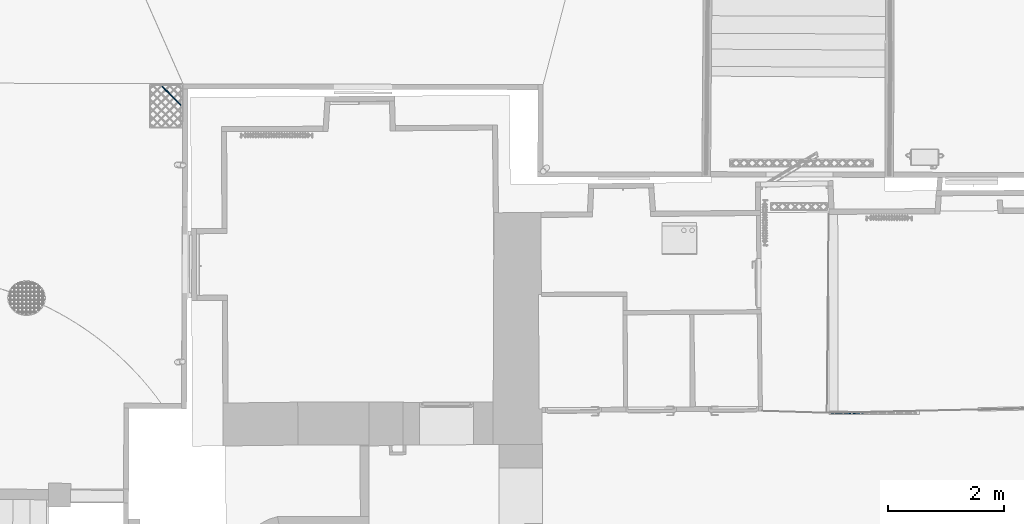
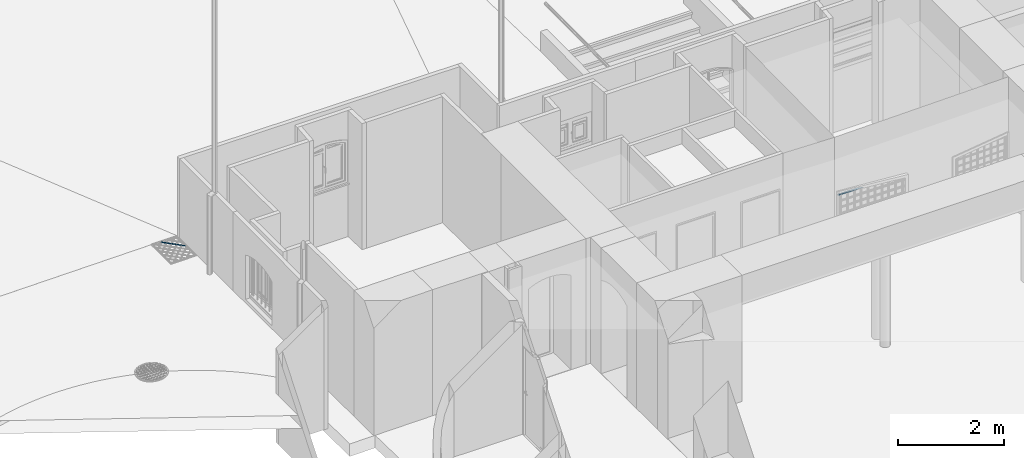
# One storey, part 55 of 133: 2 members, 2 elements without a shape of their own.
"""IFC2X3 building model written with IfcOpenShell, lengths in centimetres."""

from ifc_helpers import new_model, entity, si_unit, converted_unit, direction, frame, origin, origin_with_axes, place, context, subcontext, project, spatial, faceted_brep, material, type_object, element, aggregate, save


model = new_model("IFC2X3")

# Units and contexts
model_context = context("Model", 3, precision=0.0001, world=origin(), true_north=direction((0.225632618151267, 0.974212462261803, 0.0)))
body_context = subcontext(model_context, "Body", "Model", "MODEL_VIEW")
ifc_project = project(units=[si_unit("LENGTHUNIT", "METRE", prefix="CENTI"), si_unit("AREAUNIT", "SQUARE_METRE", prefix="CENTI"), si_unit("VOLUMEUNIT", "CUBIC_METRE", prefix="CENTI"), converted_unit("PLANEANGLEUNIT", "DEGREE", entity("IfcRatioMeasure", 0.0174532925), si_unit("PLANEANGLEUNIT", "RADIAN"), dimensions=[0, 0, 0, 0, 0, 0, 0])], contexts=[model_context])

# Site, building, storey
site_placement = place(None, origin_with_axes())
site = spatial("IfcSite", under=ifc_project, at=site_placement, Name="Default Site", CompositionType="ELEMENT")
building_placement = place(site_placement, origin_with_axes())
building = spatial("IfcBuilding", under=site, at=building_placement, Name="Default Building", CompositionType="ELEMENT")
storey_placement = place(building_placement, frame((0.0, 0.0, -291.400371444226), z_axis=(0.0, 0.0, 1.0), x_axis=(1.0, 0.0, 0.0)))
storey = spatial("IfcBuildingStorey", under=building, at=storey_placement, Name="Rez-de-Jardin", CompositionType="ELEMENT", Elevation=-291.400371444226)

# Assembly, member
building_element_proxy_type = type_object("IfcBuildingElementProxyType", Name="Type Object", PredefinedType="NOTDEFINED")
assembly_1_placement = place(storey_placement, frame((-1322.94034957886, 694.801568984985, 108.0), z_axis=(0.0, 1.0, -2.38697950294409e-15), x_axis=(1.0, 0.0, 0.0)))
assembly_1 = element("IfcElementAssembly", 1, at=assembly_1_placement, inside=storey, type_object=building_element_proxy_type, Name="Panneau 303645", ObjectType="Precast panel", PredefinedType="USERDEFINED")
ifc_material_1 = material(Name="Aluminium satiné")
member_1_placement = place(assembly_1_placement, frame((54.0000021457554, 0.342020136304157, 38.4553462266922), z_axis=(0.999999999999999, 0.0, 0.0), x_axis=(0.0, -0.774598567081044, -0.632453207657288)))
member_1 = element("IfcMember", 2, at=member_1_placement, material=ifc_material_1, Name="4294966971", context=body_context, shape_type="Brep", body=[
    faceted_brep([(8.32667268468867e-15, -1.66533453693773e-14, 0.0), (-0.388288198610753, -2.22044604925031e-14, 0.0), (-0.799165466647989, -0.15025167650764, 0.0), (-1.18307068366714, -0.432628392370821, 0.0), (-1.49370084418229, -0.813073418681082, 0.0), (-1.6935887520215, -1.24569871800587, 0.0), (-1.75862479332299, -1.6783229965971, 0.0), (-1.68096675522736, -2.05876802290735, 0.0), (-1.46997929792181, -2.3411439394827, 0.0), (-1.15111014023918, -2.49139148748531, 0.0), (-0.762820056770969, -2.49138917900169, 0.0), (-0.351944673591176, -2.34113981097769, 0.0), (0.0319605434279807, -2.05876309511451, 0.0), (0.342590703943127, -1.67831806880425, 0.0), (0.542478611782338, -1.24569276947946, 0.0), (0.607516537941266, -0.813066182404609, 0.0), (0.529856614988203, -0.432623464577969, 0.0), (0.31886915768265, -0.150247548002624, 0.0), (-21.5829499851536, -26.9745525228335, -34.6299439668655), (-21.3180216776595, -27.1908642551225, -34.5446571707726), (-21.0850476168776, -27.3810856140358, -34.2990815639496), (-20.9121279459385, -27.5222730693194, -33.9228376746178), (-20.8201192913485, -27.5973973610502, -33.461306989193), (-20.8201192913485, -27.5973973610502, -32.970155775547), (-20.9121279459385, -27.5222730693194, -32.5086236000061), (-21.0850476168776, -27.3810856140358, -32.1323812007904), (-21.3180216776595, -27.1908642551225, -31.8868055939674), (-21.5829499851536, -26.9745525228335, -31.8015173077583), (-21.8478782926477, -26.7582407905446, -31.8868055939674), (-22.0808523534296, -26.5680194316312, -32.1323812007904), (-22.2537720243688, -26.4268319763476, -32.5086236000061), (-22.3457806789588, -26.3517076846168, -32.970155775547), (-22.3457806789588, -26.3517076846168, -33.461306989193), (-22.2537720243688, -26.4268319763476, -33.9228376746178), (-22.0808523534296, -26.5680194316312, -34.2990815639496), (-21.8478782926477, -26.7582407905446, -34.5446571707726), (0.529856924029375, -0.432623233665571, -3.74318493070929e-07), (-21.3180219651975, -27.190864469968, -34.5446568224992), (0.607515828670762, -0.813066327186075, 5.60727920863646e-07), (-21.0850483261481, -27.3810857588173, -34.2990810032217), (-21.3180223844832, -27.1908643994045, -34.544656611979), (0.54247930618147, -1.24569287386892, -3.58315028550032e-07), (-20.9121278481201, -27.5222730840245, -33.9228377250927), (0.342590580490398, -1.67831801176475, 3.38953656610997e-08), (-20.8201197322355, -27.597397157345, -33.4613068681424), (-20.9121282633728, -27.5222729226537, -33.9228375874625), (0.0319605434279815, -2.05876309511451, 0.0), (-0.351944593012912, -2.34113992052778, 3.38953654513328e-08), (-20.9121278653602, -27.5222731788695, -32.5086235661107), (-20.8201190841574, -27.5973976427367, -32.9701556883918), (-0.76281988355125, -2.49138965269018, 2.57365065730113e-07), (-21.0850474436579, -27.3810860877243, -32.1323809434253), (-1.15111014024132, -2.49139076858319, -5.5685918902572e-07), (-21.3180216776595, -27.1908642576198, -31.8868055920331), (-1.46997913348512, -2.34114359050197, -3.74318492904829e-07), (-21.5829501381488, -26.9745528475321, -31.801516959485), (-21.3180219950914, -27.1908649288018, -31.8868048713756), (-1.68096706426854, -2.05876825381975, 3.74318495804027e-07), (-21.8478791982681, -26.7582414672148, -31.8868044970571), (-21.5829505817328, -26.9745529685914, -31.8015165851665), (-1.75862549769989, -1.67832314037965, 5.56859188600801e-07), (-22.0808530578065, -26.5680195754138, -32.1323806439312), (-21.8478789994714, -26.7582409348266, -31.8868050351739), (-1.69358825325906, -1.24569879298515, -2.57365067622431e-07), (-22.2537715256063, -26.4268320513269, -32.5086238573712), (-1.49370072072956, -0.813073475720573, -3.38953650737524e-08), (-22.3457808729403, -26.3517075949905, -32.9701557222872), (-1.18307068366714, -0.43262839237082, 0.0), (-22.3457806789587, -26.3517076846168, -33.461306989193), (-22.3457806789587, -26.3517076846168, -32.970155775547), (-0.799165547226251, -0.150251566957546, -3.3895365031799e-08), (-22.253771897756, -26.4268321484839, -33.9228376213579), (-22.3457804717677, -26.3517079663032, -33.4613069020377), (-0.3882879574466, -6.59490102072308e-07, 3.58315028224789e-07), (-22.0808521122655, -26.5680200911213, -34.2990812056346), (-22.2537718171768, -26.4268325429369, -33.9228373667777), (-2.15100271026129e-12, 7.23896601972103e-07, -5.60727917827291e-07), (-21.8478782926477, -26.7582407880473, -34.5446571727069), (0.318868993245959, -0.150247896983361, 3.74318490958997e-07), (-21.5829501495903, -26.9745528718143, -34.629943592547), (-21.8478786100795, -26.7582414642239, -34.5446564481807)], [[[0, 1, 2, 3, 4, 5, 6, 7, 8, 9, 10, 11, 12, 13, 14, 15, 16, 17]], [[18, 19, 20, 21, 22, 23, 24, 25, 26, 27, 28, 29, 30, 31, 32, 33, 34, 35]], [[17, 36, 37, 18]], [[16, 38, 39, 40]], [[15, 41, 42, 20]], [[14, 43, 44, 45]], [[13, 46, 23, 22]], [[12, 47, 48, 49]], [[11, 50, 51, 24]], [[10, 52, 53, 25]], [[9, 54, 55, 56]], [[8, 57, 58, 59]], [[7, 60, 61, 62]], [[6, 63, 64, 29]], [[5, 65, 66, 30]], [[4, 67, 68, 69]], [[3, 70, 71, 72]], [[2, 73, 74, 75]], [[1, 76, 77, 34]], [[0, 78, 79, 80]]]),
])
aggregate(assembly_1, [member_1])

assembly_2_placement = place(storey_placement, frame((-151.298940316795, 206.642558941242, 0.0), z_axis=(0.0, 0.0, 1.0), x_axis=(1.0, 0.0, 0.0)))
assembly_2 = element("IfcElementAssembly", 3, at=assembly_2_placement, inside=storey, type_object=building_element_proxy_type, Name="Panneau 76235", ObjectType="Precast panel", PredefinedType="USERDEFINED")
ifc_material_2 = material(Name="Noyer 01")
member_2_placement = place(assembly_2_placement, frame((58.3416759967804, -2.48696978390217, 154.097974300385), z_axis=(0.0894041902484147, -8.0331989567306e-09, 0.99599542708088), x_axis=(0.984264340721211, -0.153028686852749, -0.0883511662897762)))
member_2 = element("IfcMember", 4, at=member_2_placement, material=ifc_material_2, Name="4294966773", context=body_context, shape_type="Brep", body=[
    faceted_brep([(1.66533453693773e-14, -3.05311331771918e-14, 4.44089209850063e-14), (-2.94814781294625, -3.05311331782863e-14, -1.54761480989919e-07), (-7.41044106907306, -0.352149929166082, -3.8900730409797e-07), (-12.8486656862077, -1.01397589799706, -6.74484149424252e-07), (-18.6068860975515, -1.90565118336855, -9.76759011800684e-07), (-23.9905775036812, -2.91962682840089, -1.25937316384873e-06), (-28.3503854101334, -3.93360202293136, -1.48823907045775e-06), (-31.1604580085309, -4.82527730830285, -1.63575240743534e-06), (-32.0818532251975, -5.48710256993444, -1.68412058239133e-06), (-31.0034413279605, -5.83925254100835, -1.62750989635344e-06), (-28.0552905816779, -5.83925208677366, -1.47274821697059e-06), (-23.5929973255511, -5.4871021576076, -1.23850239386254e-06), (-18.1547745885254, -4.82527647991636, -9.53025647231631e-07), (-12.3965541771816, -3.93360119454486, -6.50750784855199e-07), (-7.01286089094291, -2.9196252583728, -3.68136534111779e-07), (-2.65305298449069, -1.90565006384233, -1.39270627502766e-07), (0.157016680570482, -1.01397523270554, 8.24255549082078e-09), (1.07841483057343, -0.352149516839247, 5.66108844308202e-08), (-53.4000726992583, -8.78828389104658, -4.9484791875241), (-53.3295573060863, -9.29650923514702, -4.85837353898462), (-53.2835312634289, -9.74591027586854, -4.59894431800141), (-53.2675464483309, -10.0822826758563, -4.2014773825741), (-53.2835305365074, -10.2650549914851, -3.71391667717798), (-53.3295565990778, -10.2721822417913, -3.19505824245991), (-53.4000730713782, -10.102804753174, -2.70748566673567), (-53.4865736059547, -9.77735188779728, -2.31001873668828), (-53.5786257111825, -9.335078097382, -2.05058952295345), (-53.6651269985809, -8.82932820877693, -1.96048388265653), (-53.7356423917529, -8.32110286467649, -2.05058953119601), (-53.7816684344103, -7.87170182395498, -2.31001875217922), (-53.7976532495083, -7.53532942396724, -2.70748568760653), (-53.7816681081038, -7.35255694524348, -3.19505826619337), (-53.7356420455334, -7.34542969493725, -3.71391670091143), (-53.665126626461, -7.51480734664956, -4.20147740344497), (-53.5786260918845, -7.84026021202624, -4.59894433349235), (-53.4865739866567, -8.28253400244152, -4.85837354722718), (1.07841483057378, -0.352149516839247, -6.64609878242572e-06), (0.157017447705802, -1.0139763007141, -6.61653058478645e-06), (-53.3295565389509, -9.29651030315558, -4.8583801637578), (-53.4000726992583, -8.78828389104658, -4.94847918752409), (0.157016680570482, -1.01397523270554, 8.24260659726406e-09), (-2.65305298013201, -1.90565007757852, -9.07708454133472e-09), (-53.2835312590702, -9.74591028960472, -4.59894434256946), (-53.3295573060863, -9.29650923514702, -4.85837353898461), (-2.6530529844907, -1.90565006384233, 1.54909640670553e-08), (-7.01286106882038, -2.91962449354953, -1.03066334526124e-06), (-53.2675466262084, -10.082281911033, -4.20147672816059), (-7.01286089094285, -2.9196252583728, -1.68507685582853e-06), (-12.3965545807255, -3.93359905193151, -8.08635655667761e-06), (-53.2835309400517, -10.2650528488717, -3.71391588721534), (-12.3965541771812, -3.93360119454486, -8.87631919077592e-06), (-18.154774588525, -4.82527647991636, -9.1355160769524e-06), (-23.5929975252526, -5.48710051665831, -4.78892195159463e-06), (-53.4000732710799, -10.1028031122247, -2.70748626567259), (-53.3295565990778, -10.2721822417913, -3.19505824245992), (-23.5929973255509, -5.4871021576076, -4.18998502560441e-06), (-28.0552905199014, -5.83925286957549, -5.24151925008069e-06), (-53.4865735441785, -9.77735267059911, -2.31001808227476), (-28.0552905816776, -5.83925208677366, -5.89593276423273e-06), (-31.0034413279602, -5.83925252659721, -6.18694608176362e-06), (-53.5786257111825, -9.33507808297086, -2.0505895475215), (-31.0034413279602, -5.83925254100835, -6.16237803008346e-06), (-32.0818528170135, -5.48710131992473, -5.87460714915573e-06), (-53.6651265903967, -8.82932695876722, -1.96049050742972), (-53.5786257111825, -9.335078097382, -2.05058952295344), (-32.0818532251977, -5.48710256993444, 7.5016604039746e-07), (-31.160458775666, -4.82527624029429, 4.54152592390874e-07), (-53.7356431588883, -8.32110179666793, -2.05058290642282), (-31.1604580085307, -4.82527730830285, -6.1706205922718e-06), (-28.3503854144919, -3.93360200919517, -5.88685565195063e-06), (-53.781668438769, -7.87170181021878, -2.31001872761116), (-28.3503854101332, -3.93360202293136, -5.91142370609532e-06), (-23.9905773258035, -2.91962759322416, -4.86526939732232e-06), (-53.7976530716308, -7.53533018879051, -2.70748634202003), (-53.7816684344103, -7.87170182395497, -2.31001875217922), (-23.990577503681, -2.91962682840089, -4.21085588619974e-06), (-18.6068864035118, -1.90564955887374, -8.5603126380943e-06), (-53.7816684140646, -7.35255532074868, -3.19505766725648), (-53.7976532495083, -7.53532942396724, -2.70748568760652), (-18.606886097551, -1.90565118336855, -9.15924953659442e-06), (-12.8486656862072, -1.01397589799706, -8.90005265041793e-06), (-7.41044133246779, -0.352147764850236, -2.49591038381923e-06), (-53.6651268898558, -7.5148051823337, -4.20147819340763), (-53.7356420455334, -7.34542969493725, -3.71391670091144), (-7.41044106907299, -0.352149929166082, -1.70594771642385e-06), (-2.94814787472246, 7.82801806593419e-07, -6.54413492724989e-07), (-53.5786261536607, -7.84025942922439, -4.59894498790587), (-53.665126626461, -7.51480734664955, -4.20147740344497), (-2.94814781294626, -3.05311331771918e-14, 2.22044604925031e-14), (1.63781657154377e-14, -1.44111672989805e-08, 2.45680904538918e-08), (-53.4865739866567, -8.28253401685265, -4.85837352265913), (-53.5786260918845, -7.84026021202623, -4.59894433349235), (1.07841442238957, -0.35215076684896, -2.1325586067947e-08), (-53.4000731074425, -8.7882851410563, -4.9484725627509)], [[[0, 1, 2, 3, 4, 5, 6, 7, 8, 9, 10, 11, 12, 13, 14, 15, 16, 17]], [[18, 19, 20, 21, 22, 23, 24, 25, 26, 27, 28, 29, 30, 31, 32, 33, 34, 35]], [[36, 37, 38, 39]], [[40, 41, 42, 43]], [[44, 45, 46, 20]], [[47, 48, 49, 21]], [[50, 51, 23, 22]], [[51, 52, 53, 54]], [[55, 56, 57, 24]], [[58, 59, 60, 25]], [[61, 62, 63, 64]], [[65, 66, 67, 27]], [[68, 69, 70, 28]], [[71, 72, 73, 74]], [[75, 76, 77, 78]], [[79, 80, 32, 31]], [[80, 81, 82, 83]], [[84, 85, 86, 87]], [[88, 89, 90, 91]], [[0, 92, 93, 35]]]),
])
aggregate(assembly_2, [member_2])

save(model, "model.ifc")
